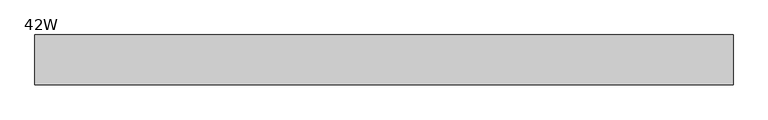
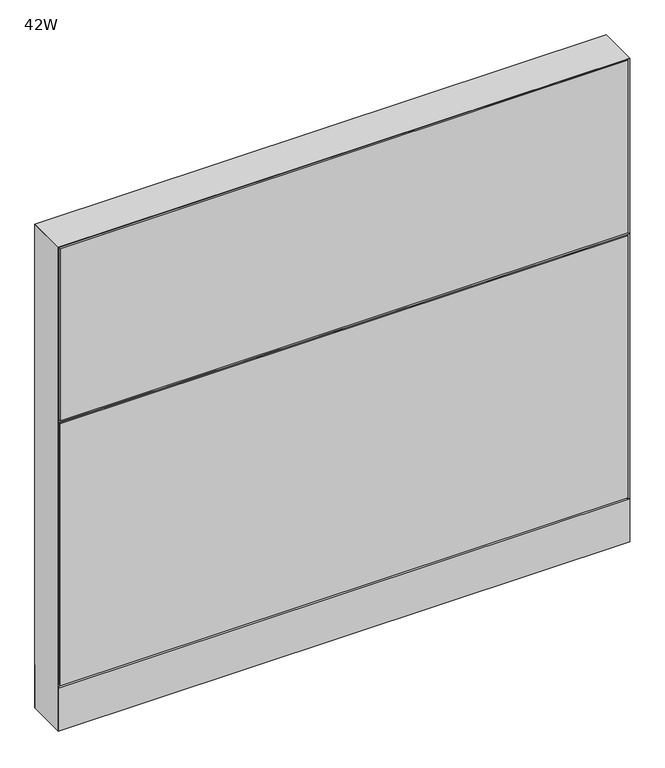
"""IFC4 building model written with IfcOpenShell, lengths in millimetres: furniture geometry, Steelcase - Montage - Frame - 38H - Enhanced Monolithic - Base Cavity : 42W."""

from ifc_helpers import new_model, si_unit, point, frame, frame_2d, origin, origin_with_axes, place, context, project, spatial, polyline, circle_curve, trimmed, segment, composite_curve, outline, extrude, faceted_brep, source, transform, mapped, element, save


def furniture_42w_c59e6604(model_context):
    return source(origin(), model_context, "Body", "SolidModel", [
        extrude(outline(polyline([(231.775, 31.7500194), (231.775, 38.1000194), (835.025, 38.1000194), (835.025, 31.7500194), (231.775, 31.7500194)])), frame((0.0, 0.0, 92.075), z_axis=(0.0, 0.0, 1.0), x_axis=(1.0, 0.0, 0.0)), (0.0, 0.0, 1.0), 863.6),
        faceted_brep([(1066.8, -38.1026297, 612.775), (0.0, -38.1026297, 612.775), (6.3499917, -31.7526299, 606.4250003), (1060.4500047, -31.7526299, 606.4250003), (6.3499917, -31.7526299, 619.1249997), (1060.4500047, -31.7526299, 619.1249997)], [[[0, 1, 2, 3]], [[4, 5, 3, 2]], [[5, 0, 3]], [[1, 0, 5, 4]], [[1, 4, 2]]]),
        extrude(outline(polyline([(3.175, -31.7500194), (1063.625, -31.7500194), (1063.625, -38.1000194), (3.175, -38.1000194), (3.175, -31.7500194)])), frame((0.0, 0.0, 92.075), z_axis=(0.0, 0.0, 1.0), x_axis=(1.0, 0.0, 0.0)), (0.0, 0.0, 1.0), 517.525),
        extrude(outline(polyline([(3.175, -31.7500194), (1063.625, -31.7500194), (1063.625, -38.1000194), (3.175, -38.1000194), (3.175, -31.7500194)])), frame((0.0, 0.0, 615.95), z_axis=(0.0, 0.0, 1.0), x_axis=(1.0, 0.0, 0.0)), (0.0, 0.0, 1.0), 339.725),
        extrude(outline(polyline([(6.350003, -31.7499985), (1060.449997, -31.7499985), (1066.8, -38.1000015), (0.0, -38.1000015), (6.350003, -31.7499985)])), frame((0.0, 0.0, 4.064), z_axis=(0.0, 0.0, 1.0), x_axis=(1.0, 0.0, 0.0)), (0.0, 0.0, 1.0), 84.835997),
        extrude(outline(polyline([(6.3500002, 31.7500017), (0.0, 38.1000015), (1066.8, 38.1000015), (1060.4500002, 31.7500017), (6.3500002, 31.7500017)])), frame((0.0, 0.0, 4.064), z_axis=(0.0, 0.0, 1.0), x_axis=(1.0, 0.0, 0.0)), (0.0, 0.0, 1.0), 84.835997),
        faceted_brep([(1060.4499516, -31.749953, 952.4999516), (6.3500484, -31.749953, 952.4999516), (6.3500484, 31.749953, 952.4999516), (1060.4499516, 31.749953, 952.4999516), (0.0, -38.1000015, 958.85), (1066.8, -38.1000015, 958.85), (1066.8, 38.1000015, 958.85), (0.0, 38.1000015, 958.85)], [[[0, 1, 2, 3]], [[4, 5, 6, 7]], [[5, 4, 1, 0]], [[7, 6, 3, 2]], [[1, 4, 7, 2]], [[5, 0, 3, 6]]]),
        extrude(outline(composite_curve([segment(trimmed(circle_curve(frame_2d((44.45, 0.0)), 15.24), [point((29.21, 0.0))], [point((59.69, 0.0))], False, "CARTESIAN"), True, "CONTINUOUS"), segment(trimmed(circle_curve(frame_2d((44.45, 0.0)), 15.24), [point((59.69, 0.0))], [point((29.21, 0.0))], False, "CARTESIAN"), True, "CONTINUOUS")], self_intersect=False)), origin_with_axes(), (0.0, 0.0, 1.0), 4.064),
        extrude(outline(composite_curve([segment(trimmed(circle_curve(frame_2d((1022.35, 0.0)), 15.24), [point((1007.11, 0.0))], [point((1037.59, 0.0))], False, "CARTESIAN"), True, "CONTINUOUS"), segment(trimmed(circle_curve(frame_2d((1022.35, 0.0)), 15.24), [point((1037.59, 0.0))], [point((1007.11, 0.0))], False, "CARTESIAN"), True, "CONTINUOUS")], self_intersect=False)), origin_with_axes(), (0.0, 0.0, 1.0), 4.064),
        faceted_brep([(1066.8, -38.1000106, 4.064), (1066.8, 38.1000015, 4.064), (1066.8, 38.1000015, 958.85), (1066.8, -38.1000106, 958.8499637), (0.0, 38.1000015, 4.064), (0.0, -38.1000015, 4.064), (0.0, -38.1000015, 958.85), (0.0, 38.1000015, 958.85), (1060.4499879, 31.7500017, 619.125), (6.35, 31.7500017, 619.125), (6.35, -31.7499985, 619.125), (1060.4499879, -31.7499985, 619.125), (6.35, 31.7500017, 606.425), (1060.4499879, 31.7500017, 606.425), (1060.4499879, -31.7499985, 606.425), (6.35, -31.7499985, 606.425), (6.35, 31.7500015, 4.064), (6.35, -31.7500015, 4.064), (1060.4499879, 31.7499894, 4.064), (1060.4499879, -31.7499985, 4.064), (6.35, 31.7500015, 952.5), (6.35, -31.7500015, 952.5), (1060.4499879, -31.7499985, 952.4999516), (1060.4499879, 31.7499896, 952.4999516)], [[[0, 1, 2, 3]], [[4, 5, 6, 7]], [[8, 9, 10, 11]], [[12, 13, 14, 15]], [[16, 17, 5, 4]], [[18, 1, 0, 19]], [[17, 16, 12, 15]], [[10, 9, 20, 21]], [[18, 19, 14, 13]], [[8, 11, 22, 23]], [[16, 4, 7, 20, 9, 12]], [[5, 17, 15, 10, 21, 6]], [[19, 0, 3, 22, 11, 14]], [[1, 18, 13, 8, 23, 2]], [[7, 6, 21, 20]], [[3, 2, 23, 22]], [[13, 12, 9, 8]], [[11, 10, 15, 14]]]),
    ])


if __name__ == "__main__":
    model = new_model("IFC4")
    model_context = context("Model", 3, world=origin())
    ifc_project = project(units=[si_unit("LENGTHUNIT", "METRE", prefix="MILLI")], contexts=[model_context])
    site = spatial("IfcSite", under=ifc_project)
    building = spatial("IfcBuilding", under=site)
    placement = place(None, origin())
    furniture_42w_shape = furniture_42w_c59e6604(model_context)
    element("IfcFurniture", 1, ObjectType="Steelcase - Montage - Frame - 38H - Enhanced Monolithic - Base Cavity : 42W", at=placement, inside=building, context=model_context, shape_type="MappedRepresentation", body=[
        mapped(furniture_42w_shape, transform((0.0, 0.0, 0.0), x_axis=(1.0, 0.0, 0.0), y_axis=(0.0, 1.0, 0.0), z_axis=(0.0, 0.0, 1.0))),
    ])
    save(model, "model.ifc")
